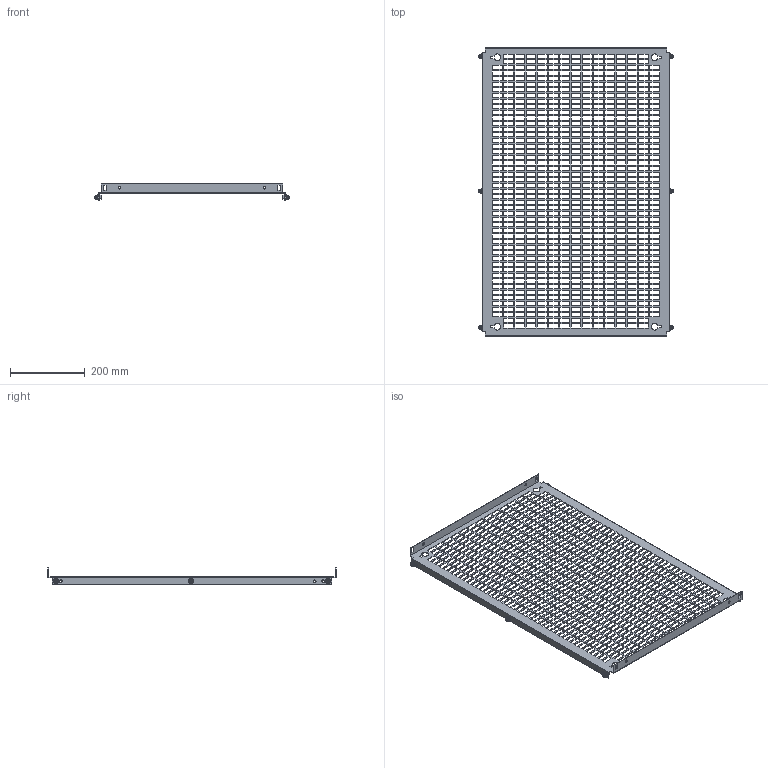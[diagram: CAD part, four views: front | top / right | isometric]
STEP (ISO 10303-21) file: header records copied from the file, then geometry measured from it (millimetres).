
FILE_DESCRIPTION(('Open CASCADE Model'),'2;1');
FILE_NAME('Open CASCADE Shape Model','2025-02-19T16:50:10',('Author'),( 'Open CASCADE'),'Open CASCADE STEP processor 7.8','Open CASCADE 7.8' ,'Unknown');
FILE_SCHEMA(('AUTOMOTIVE_DESIGN { 1 0 10303 214 1 1 1 1 }'));
Length unit declared in the file: millimetre
Products named in the file (4): Compound1; Solid1; Solid2; Solid3
Assembly tree (13 placements, depth 2):
  Compound1
    Solid1
    Solid2  x6
    Solid3  x6
Bounding box: 520 x 769 x 43 mm (x, y, z)
Volume: 453862.3 mm3; surface area: 567263.3 mm2
Topology: 13 solids, 13 shells, 3306 faces, 9662 edges, 6388 vertices
Faces by surface type: plane 3076, cone 102, bspline 72, cylinder 38, torus 18
Full cylindrical faces by diameter (mm): 5 x6, 6 x12, 7 x16
Entity records: 103780 total; most frequent: CARTESIAN_POINT 18811, ORIENTED_EDGE 18194, DIRECTION 15184, EDGE_CURVE 9097, LINE 8932, VECTOR 8932, VERTEX_POINT 6058, FACE_BOUND 4551
